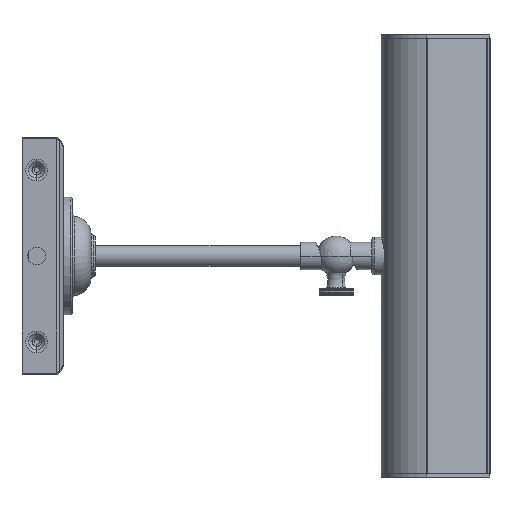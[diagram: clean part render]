
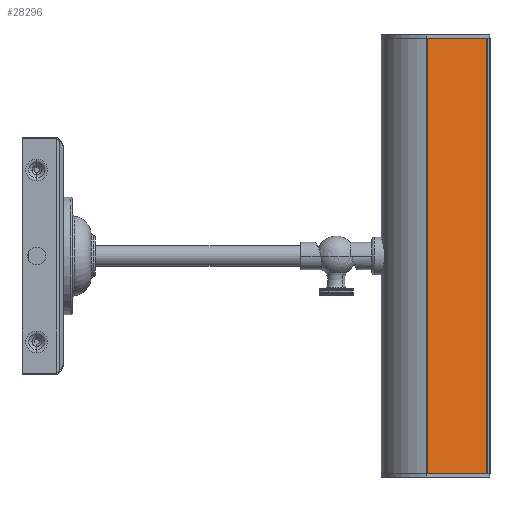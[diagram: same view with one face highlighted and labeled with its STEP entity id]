
A CAD part, front view. The second image highlights one B-rep face of the part: STEP entity #28296.
In plain terms, the highlighted planar face has unit normal (0.643, -0.766, 0) as drawn and (0, -1, 0) by its records, which use the part's own axes.
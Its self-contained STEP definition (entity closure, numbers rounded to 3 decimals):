
#28181=DIRECTION('',(0.,0.,1.));
#28182=VECTOR('',#28181,37.);
#28183=CARTESIAN_POINT('',(-104.,0.,-18.5));
#28184=LINE('',#28183,#28182);
#28188=DIRECTION('',(1.,0.,0.));
#28189=VECTOR('',#28188,208.);
#28190=CARTESIAN_POINT('',(-104.,0.,18.5));
#28191=LINE('',#28190,#28189);
#28195=DIRECTION('',(0.,0.,-1.));
#28196=VECTOR('',#28195,37.);
#28197=CARTESIAN_POINT('',(104.,0.,18.5));
#28198=LINE('',#28197,#28196);
#28202=DIRECTION('',(-1.,0.,0.));
#28203=VECTOR('',#28202,208.);
#28204=CARTESIAN_POINT('',(104.,0.,-18.5));
#28205=LINE('',#28204,#28203);
#28265=CARTESIAN_POINT('',(-104.,0.,-18.5));
#28266=CARTESIAN_POINT('',(-104.,0.,18.5));
#28267=VERTEX_POINT('',#28265);
#28268=VERTEX_POINT('',#28266);
#28269=CARTESIAN_POINT('',(104.,0.,18.5));
#28270=VERTEX_POINT('',#28269);
#28271=CARTESIAN_POINT('',(104.,0.,-18.5));
#28272=VERTEX_POINT('',#28271);
#28281=CARTESIAN_POINT('',(0.,0.,0.));
#28282=DIRECTION('',(0.,1.,0.));
#28283=DIRECTION('',(1.,0.,0.));
#28284=AXIS2_PLACEMENT_3D('',#28281,#28282,#28283);
#28285=PLANE('',#28284);
#28287=ORIENTED_EDGE('',*,*,#28286,.T.);
#28289=ORIENTED_EDGE('',*,*,#28288,.T.);
#28291=ORIENTED_EDGE('',*,*,#28290,.T.);
#28293=ORIENTED_EDGE('',*,*,#28292,.T.);
#28294=EDGE_LOOP('',(#28287,#28289,#28291,#28293));
#28295=FACE_OUTER_BOUND('',#28294,.F.);
#28286=EDGE_CURVE('',#28267,#28268,#28184,.T.);
#28288=EDGE_CURVE('',#28268,#28270,#28191,.T.);
#28290=EDGE_CURVE('',#28270,#28272,#28198,.T.);
#28292=EDGE_CURVE('',#28272,#28267,#28205,.T.);
#28296=ADVANCED_FACE('',(#28295),#28285,.F.);
